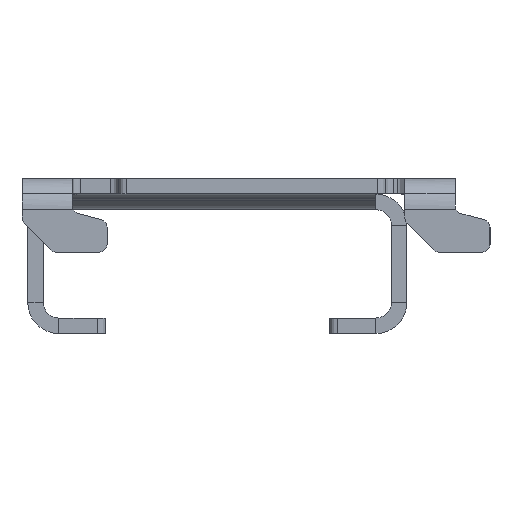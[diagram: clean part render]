
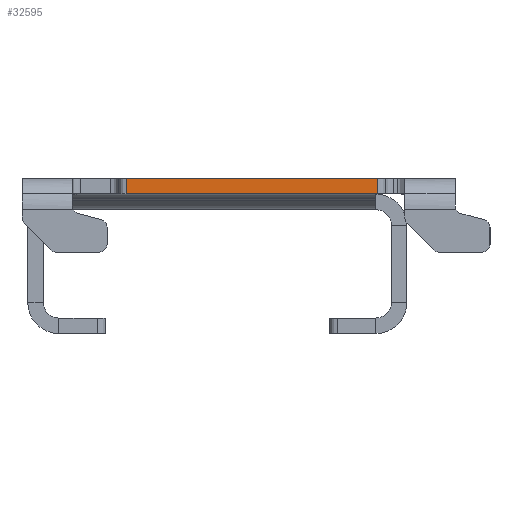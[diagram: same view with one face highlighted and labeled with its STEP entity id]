
A CAD part, left-side view. The second image highlights one B-rep face of the part: STEP entity #32595.
In plain terms, the highlighted planar face has unit normal (-1, 0, 0).
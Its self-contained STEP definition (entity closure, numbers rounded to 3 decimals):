
#1121 = DIRECTION ( 'NONE',  ( 0., 1., 0. ) ) ;
#1164 = VERTEX_POINT ( 'NONE', #27608 ) ;
#2135 = CARTESIAN_POINT ( 'NONE',  ( -496.359, 0., 9.031 ) ) ;
#3684 = VERTEX_POINT ( 'NONE', #34016 ) ;
#4369 = AXIS2_PLACEMENT_3D ( 'NONE', #17516, #14111, #7303 ) ;
#5275 = ORIENTED_EDGE ( 'NONE', *, *, #28996, .T. ) ;
#6274 = VECTOR ( 'NONE', #1121, 1000. ) ;
#6853 = PLANE ( 'NONE',  #4369 ) ;
#7303 = DIRECTION ( 'NONE',  ( 0., 0., 1. ) ) ;
#8763 = ORIENTED_EDGE ( 'NONE', *, *, #28078, .T. ) ;
#10615 = VECTOR ( 'NONE', #42685, 1000. ) ;
#11910 = CARTESIAN_POINT ( 'NONE',  ( -496.359, -20.75, 11.031 ) ) ;
#12012 = CARTESIAN_POINT ( 'NONE',  ( -496.359, 25.25, 11.031 ) ) ;
#14111 = DIRECTION ( 'NONE',  ( -1., 0., 0. ) ) ;
#14662 = CARTESIAN_POINT ( 'NONE',  ( -496.359, 11.75, 9.031 ) ) ;
#15068 = LINE ( 'NONE', #2135, #10615 ) ;
#15741 = DIRECTION ( 'NONE',  ( 0., 0., 1. ) ) ;
#17516 = CARTESIAN_POINT ( 'NONE',  ( -496.359, 25.25, 11.031 ) ) ;
#19977 = VERTEX_POINT ( 'NONE', #14662 ) ;
#20632 = VERTEX_POINT ( 'NONE', #21592 ) ;
#21451 = ORIENTED_EDGE ( 'NONE', *, *, #28240, .T. ) ;
#21592 = CARTESIAN_POINT ( 'NONE',  ( -496.359, -20.75, 9.031 ) ) ;
#24364 = DIRECTION ( 'NONE',  ( 0., 0., -1. ) ) ;
#24815 = CARTESIAN_POINT ( 'NONE',  ( -496.359, 11.75, 9.031 ) ) ;
#26302 = EDGE_LOOP ( 'NONE', ( #32154, #21451, #5275, #8763 ) ) ;
#26497 = VECTOR ( 'NONE', #24364, 1000. ) ;
#27608 = CARTESIAN_POINT ( 'NONE',  ( -496.359, 11.75, 11.031 ) ) ;
#28078 = EDGE_CURVE ( 'NONE', #1164, #19977, #41780, .T. ) ;
#28212 = EDGE_CURVE ( 'NONE', #20632, #19977, #15068, .T. ) ;
#28240 = EDGE_CURVE ( 'NONE', #20632, #3684, #42913, .T. ) ;
#28996 = EDGE_CURVE ( 'NONE', #3684, #1164, #32167, .T. ) ;
#31095 = FACE_OUTER_BOUND ( 'NONE', #26302, .T. ) ;
#32154 = ORIENTED_EDGE ( 'NONE', *, *, #28212, .F. ) ;
#32167 = LINE ( 'NONE', #12012, #6274 ) ;
#32595 = ADVANCED_FACE ( 'NONE', ( #31095 ), #6853, .T. ) ;
#34016 = CARTESIAN_POINT ( 'NONE',  ( -496.359, -20.75, 11.031 ) ) ;
#34462 = VECTOR ( 'NONE', #15741, 1000. ) ;
#41780 = LINE ( 'NONE', #24815, #26497 ) ;
#42685 = DIRECTION ( 'NONE',  ( 0., 1., 0. ) ) ;
#42913 = LINE ( 'NONE', #11910, #34462 ) ;
